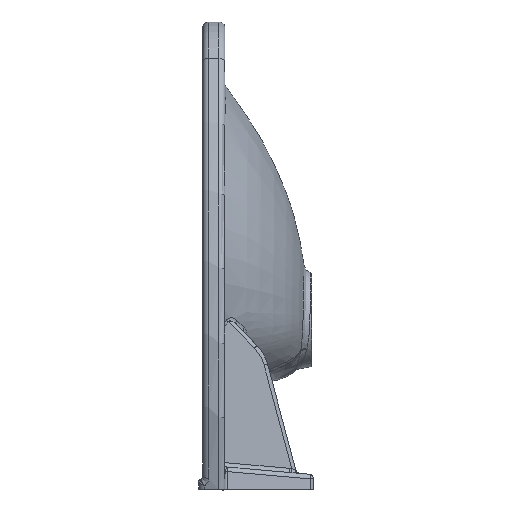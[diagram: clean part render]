
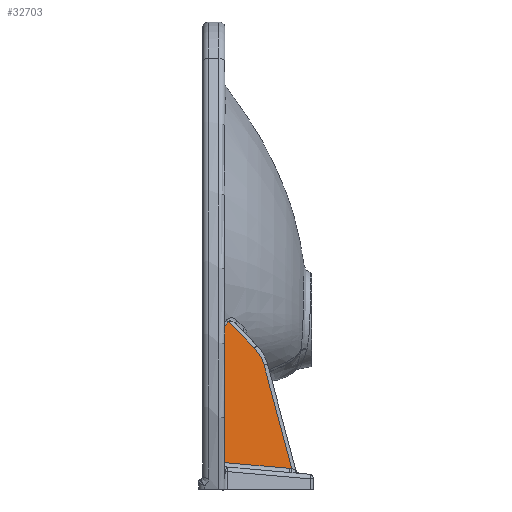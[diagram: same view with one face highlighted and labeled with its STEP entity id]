
A CAD part, left-side view. The second image highlights one B-rep face of the part: STEP entity #32703.
In plain terms, the highlighted planar face has unit normal (-0.986, -0.168, -0.002).
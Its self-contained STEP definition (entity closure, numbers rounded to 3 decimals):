
#240 = CARTESIAN_POINT ( 'NONE',  ( -200.912, -106.636, -174.464 ) ) ;
#3359 = CARTESIAN_POINT ( 'NONE',  ( -214.046, -31.106, -7.338 ) ) ;
#3592 =( BOUNDED_CURVE ( )  B_SPLINE_CURVE ( 3, ( #40543, #35999, #50991, #8780 ),
 .UNSPECIFIED., .F., .T. ) 
 B_SPLINE_CURVE_WITH_KNOTS ( ( 4, 4 ),
 ( 0.364, 0.876 ),
 .UNSPECIFIED. ) 
 CURVE ( )  GEOMETRIC_REPRESENTATION_ITEM ( )  RATIONAL_B_SPLINE_CURVE ( ( 1., 0.978, 0.978, 1. ) ) 
 REPRESENTATION_ITEM ( '' )  );
#3806 = VERTEX_POINT ( 'NONE', #35204 ) ;
#4031 = ORIENTED_EDGE ( 'NONE', *, *, #25760, .T. ) ;
#4226 = CARTESIAN_POINT ( 'NONE',  ( -206.167, -76.957, -53.059 ) ) ;
#4363 = CARTESIAN_POINT ( 'NONE',  ( -215.619, -21.776, -16.315 ) ) ;
#5231 = VECTOR ( 'NONE', #56054, 1000. ) ;
#6325 = CARTESIAN_POINT ( 'NONE',  ( -229.605, 59.968, 29.102 ) ) ;
#6642 = CARTESIAN_POINT ( 'NONE',  ( -200.912, -106.636, -174.464 ) ) ;
#7478 = VERTEX_POINT ( 'NONE', #31544 ) ;
#7895 = LINE ( 'NONE', #56726, #19977 ) ;
#8566 = CARTESIAN_POINT ( 'NONE',  ( -215.56, -22.128, -15.945 ) ) ;
#8570 = DIRECTION ( 'NONE',  ( -0.046, 0.258, 0.965 ) ) ;
#8780 = CARTESIAN_POINT ( 'NONE',  ( -208.126, -65.64, -33.176 ) ) ;
#8932 = CARTESIAN_POINT ( 'NONE',  ( -215.47, -21.161, -166.986 ) ) ;
#9567 = CARTESIAN_POINT ( 'NONE',  ( -215.676, -21.435, -16.999 ) ) ;
#10681 = CARTESIAN_POINT ( 'NONE',  ( -200.418, -109.54, -174.748 ) ) ;
#12451 = CARTESIAN_POINT ( 'NONE',  ( -208.413, -63.973, -31.505 ) ) ;
#18274 = VERTEX_POINT ( 'NONE', #31327 ) ;
#18554 = VERTEX_POINT ( 'NONE', #6642 ) ;
#19221 = ORIENTED_EDGE ( 'NONE', *, *, #32427, .T. ) ;
#19977 = VECTOR ( 'NONE', #8570, 1000. ) ;
#20519 = ORIENTED_EDGE ( 'NONE', *, *, #60414, .T. ) ;
#22017 = DIRECTION ( 'NONE',  ( 0.167, -0.982, -0.086 ) ) ;
#22508 = VERTEX_POINT ( 'NONE', #8932 ) ;
#22704 = CARTESIAN_POINT ( 'NONE',  ( -232.012, 75.97, -158.488 ) ) ;
#24508 = DIRECTION ( 'NONE',  ( 0.002, 0., -1. ) ) ;
#24574 = VECTOR ( 'NONE', #22017, 1000. ) ;
#25618 = CARTESIAN_POINT ( 'NONE',  ( -215.56, -22.128, -15.945 ) ) ;
#25760 = EDGE_CURVE ( 'NONE', #7478, #45309, #7895, .T. ) ;
#26058 = ORIENTED_EDGE ( 'NONE', *, *, #30102, .T. ) ;
#26911 = FACE_OUTER_BOUND ( 'NONE', #38113, .T. ) ;
#27147 = B_SPLINE_CURVE_WITH_KNOTS ( 'NONE', 3,
 ( #25618, #46894, #4363, #36111, #9567, #68195, #57364, #30851 ),
 .UNSPECIFIED., .F., .F.,
 ( 4, 2, 2, 4 ),
 ( 0., 0.001, 0.002, 0.003 ),
 .UNSPECIFIED. ) ;
#28375 = LINE ( 'NONE', #28725, #54995 ) ;
#28414 = ORIENTED_EDGE ( 'NONE', *, *, #68245, .T. ) ;
#28725 = CARTESIAN_POINT ( 'NONE',  ( -215.8, -21.161, 29.125 ) ) ;
#30102 = EDGE_CURVE ( 'NONE', #61845, #3806, #31865, .T. ) ;
#30851 = CARTESIAN_POINT ( 'NONE',  ( -215.719, -21.161, -18.734 ) ) ;
#31327 = CARTESIAN_POINT ( 'NONE',  ( -208.126, -65.64, -33.176 ) ) ;
#31389 = ORIENTED_EDGE ( 'NONE', *, *, #65647, .T. ) ;
#31544 = CARTESIAN_POINT ( 'NONE',  ( -200.418, -109.54, -174.748 ) ) ;
#31865 = B_SPLINE_CURVE_WITH_KNOTS ( 'NONE', 3,
 ( #56368, #54745, #3359, #38713, #49496, #8566 ),
 .UNSPECIFIED., .F., .F.,
 ( 4, 2, 4 ),
 ( 0., 0.009, 0.019 ),
 .UNSPECIFIED. ) ;
#32427 = EDGE_CURVE ( 'NONE', #18274, #61845, #65840, .T. ) ;
#32703 = ADVANCED_FACE ( 'NONE', ( #26911 ), #58984, .T. ) ;
#33548 = LINE ( 'NONE', #22704, #24574 ) ;
#35204 = CARTESIAN_POINT ( 'NONE',  ( -215.56, -22.128, -15.945 ) ) ;
#35999 = CARTESIAN_POINT ( 'NONE',  ( -206.523, -74.942, -45.532 ) ) ;
#36111 = CARTESIAN_POINT ( 'NONE',  ( -215.66, -21.529, -16.758 ) ) ;
#37230 = CARTESIAN_POINT ( 'NONE',  ( -200.747, -107.606, -174.549 ) ) ;
#38113 = EDGE_LOOP ( 'NONE', ( #19221, #26058, #57809, #28414, #20519, #40166, #4031, #31389 ) ) ;
#38713 = CARTESIAN_POINT ( 'NONE',  ( -214.768, -26.82, -11.839 ) ) ;
#39918 = EDGE_CURVE ( 'NONE', #3806, #63605, #27147, .T. ) ;
#40166 = ORIENTED_EDGE ( 'NONE', *, *, #59807, .T. ) ;
#40543 = CARTESIAN_POINT ( 'NONE',  ( -206.167, -76.957, -53.059 ) ) ;
#45309 = VERTEX_POINT ( 'NONE', #4226 ) ;
#46894 = CARTESIAN_POINT ( 'NONE',  ( -215.593, -21.931, -16.107 ) ) ;
#47610 = CARTESIAN_POINT ( 'NONE',  ( -213.396, -34.975, -2.428 ) ) ;
#49206 = DIRECTION ( 'NONE',  ( -0.986, -0.168, -0.002 ) ) ;
#49496 = CARTESIAN_POINT ( 'NONE',  ( -215.153, -24.538, -13.955 ) ) ;
#50868 = AXIS2_PLACEMENT_3D ( 'NONE', #6325, #49206, #64232 ) ;
#50991 = CARTESIAN_POINT ( 'NONE',  ( -207.19, -71.086, -38.757 ) ) ;
#54745 = CARTESIAN_POINT ( 'NONE',  ( -213.71, -33.108, -4.949 ) ) ;
#54995 = VECTOR ( 'NONE', #24508, 1000. ) ;
#56054 = DIRECTION ( 'NONE',  ( -0.12, 0.701, 0.703 ) ) ;
#56368 = CARTESIAN_POINT ( 'NONE',  ( -213.396, -34.975, -2.428 ) ) ;
#56726 = CARTESIAN_POINT ( 'NONE',  ( -199.159, -116.671, -201.381 ) ) ;
#57364 = CARTESIAN_POINT ( 'NONE',  ( -215.72, -21.161, -18.224 ) ) ;
#57809 = ORIENTED_EDGE ( 'NONE', *, *, #39918, .T. ) ;
#58480 = CARTESIAN_POINT ( 'NONE',  ( -200.582, -108.575, -174.644 ) ) ;
#58984 = PLANE ( 'NONE',  #50868 ) ;
#59807 = EDGE_CURVE ( 'NONE', #18554, #7478, #68187, .T. ) ;
#60414 = EDGE_CURVE ( 'NONE', #22508, #18554, #33548, .T. ) ;
#61845 = VERTEX_POINT ( 'NONE', #47610 ) ;
#63605 = VERTEX_POINT ( 'NONE', #66603 ) ;
#64232 = DIRECTION ( 'NONE',  ( -0.002, 0.004, 1. ) ) ;
#65647 = EDGE_CURVE ( 'NONE', #45309, #18274, #3592, .T. ) ;
#65840 = LINE ( 'NONE', #12451, #5231 ) ;
#66603 = CARTESIAN_POINT ( 'NONE',  ( -215.719, -21.161, -18.734 ) ) ;
#68187 =( BOUNDED_CURVE ( )  B_SPLINE_CURVE ( 3, ( #240, #37230, #58480, #10681 ),
 .UNSPECIFIED., .F., .F. ) 
 B_SPLINE_CURVE_WITH_KNOTS ( ( 4, 4 ),
 ( 1.584, 1.659 ),
 .UNSPECIFIED. ) 
 CURVE ( )  GEOMETRIC_REPRESENTATION_ITEM ( )  RATIONAL_B_SPLINE_CURVE ( ( 1., 1., 1., 1. ) ) 
 REPRESENTATION_ITEM ( '' )  );
#68195 = CARTESIAN_POINT ( 'NONE',  ( -215.711, -21.22, -17.725 ) ) ;
#68245 = EDGE_CURVE ( 'NONE', #63605, #22508, #28375, .T. ) ;
